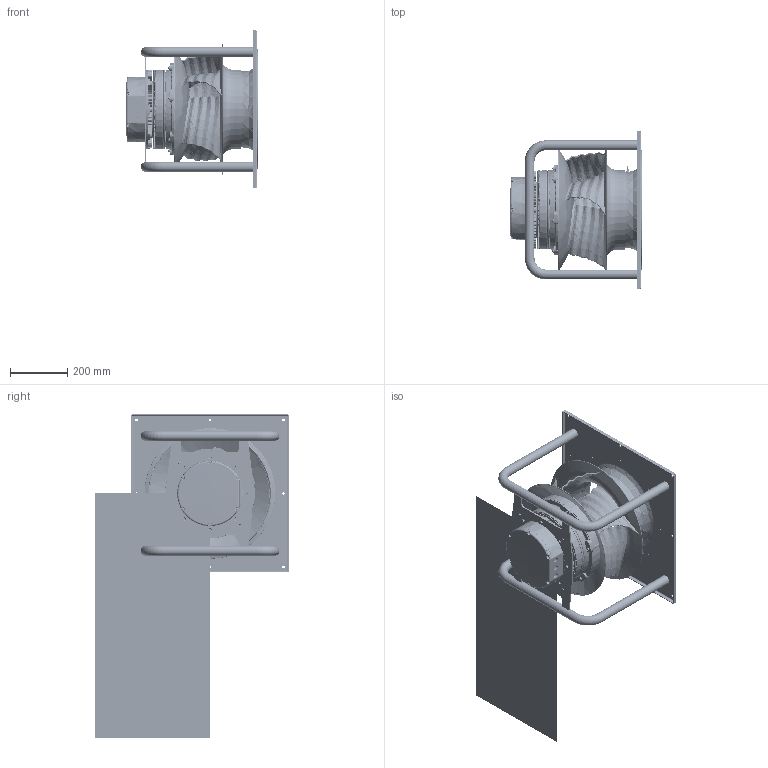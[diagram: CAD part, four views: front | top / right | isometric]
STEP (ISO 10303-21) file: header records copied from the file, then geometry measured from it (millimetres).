
FILE_DESCRIPTION((''),'2;1');
FILE_NAME('COPY_ASM','2021-11-29T05:47:07',('moldovan'),(''),'CREO PARAMETRIC BY PTC INC, 2020184','CREO PARAMETRIC BY PTC INC, 2020184','');
FILE_SCHEMA(('AUTOMOTIVE_DESIGN { 1 0 10303 214 1 1 1 1 }'));
Products named in the file (4): ZACREATE_SKELETT; ZAC_05-46-10-KM; COPY; COPY_ASM
Assembly tree (3 placements, depth 2):
  COPY_ASM
    ZACREATE_SKELETT
    ZAC_05-46-10-KM
    COPY
Bounding box: 458.02 x 675 x 1125 mm (x, y, z)
Volume: 11984292.4 mm3; surface area: 3516871.9 mm2
Topology: 4 solids, 7 shells, 9984 faces, 25582 edges, 15968 vertices
Faces by surface type: plane 4346, bspline 2239, cylinder 1092, torus 1078, cone 745, extrusion 434, sphere 42, revolution 8
Entity records: 528779 total; most frequent: CARTESIAN_POINT 291278, ORIENTED_EDGE 51154, DIRECTION 41024, EDGE_CURVE 25577, VERTEX_POINT 15968, AXIS2_PLACEMENT_3D 14285, VECTOR 12446, LINE 12012
